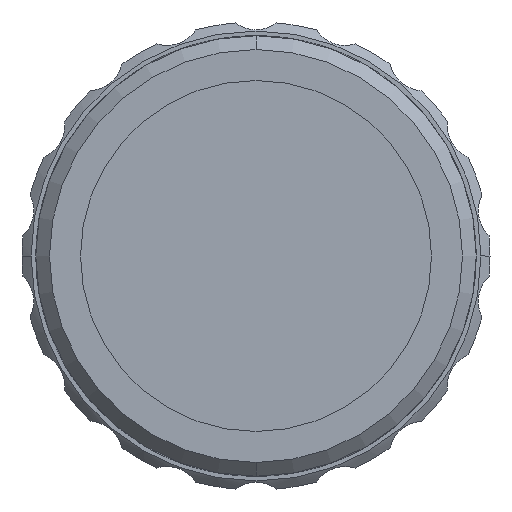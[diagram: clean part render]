
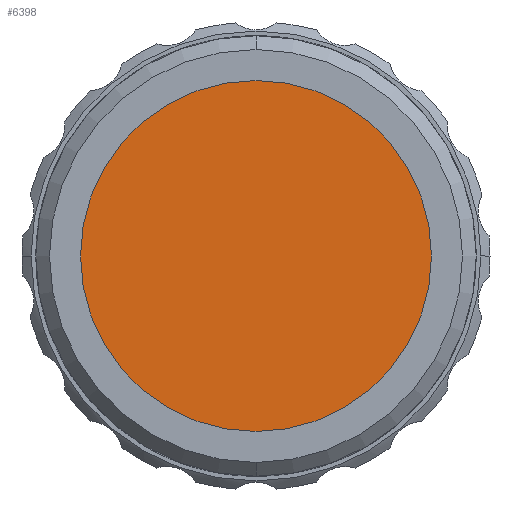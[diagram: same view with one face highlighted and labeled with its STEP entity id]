
A CAD part, front view. The second image highlights one B-rep face of the part: STEP entity #6398.
In plain terms, the highlighted planar face has unit normal (0, -1, 0).
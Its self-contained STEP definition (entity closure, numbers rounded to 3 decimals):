
#111 = CIRCLE ( 'NONE', #5769, 14.255 ) ;
#505 = DIRECTION ( 'NONE',  ( 0., 0., -1. ) ) ;
#1157 = EDGE_LOOP ( 'NONE', ( #12143, #11635 ) ) ;
#4264 = DIRECTION ( 'NONE',  ( 0., 0., -1. ) ) ;
#5537 = EDGE_CURVE ( 'NONE', #7720, #9409, #111, .T. ) ;
#5769 = AXIS2_PLACEMENT_3D ( 'NONE', #10181, #8959, #13613 ) ;
#5774 = CARTESIAN_POINT ( 'NONE',  ( -14.255, -60.4, 0. ) ) ;
#6398 = ADVANCED_FACE ( 'NONE', ( #10480 ), #7390, .T. ) ;
#7390 = PLANE ( 'NONE',  #11386 ) ;
#7686 = CARTESIAN_POINT ( 'NONE',  ( 0., -60.4, 0. ) ) ;
#7720 = VERTEX_POINT ( 'NONE', #5774 ) ;
#8165 = EDGE_CURVE ( 'NONE', #9409, #7720, #10829, .T. ) ;
#8959 = DIRECTION ( 'NONE',  ( 0., 1., 0. ) ) ;
#9409 = VERTEX_POINT ( 'NONE', #12729 ) ;
#10181 = CARTESIAN_POINT ( 'NONE',  ( 0., -60.4, 0. ) ) ;
#10480 = FACE_OUTER_BOUND ( 'NONE', #1157, .T. ) ;
#10829 = CIRCLE ( 'NONE', #12176, 14.255 ) ;
#10849 = CARTESIAN_POINT ( 'NONE',  ( 0., -60.4, 0. ) ) ;
#11386 = AXIS2_PLACEMENT_3D ( 'NONE', #10849, #13375, #505 ) ;
#11635 = ORIENTED_EDGE ( 'NONE', *, *, #5537, .F. ) ;
#12143 = ORIENTED_EDGE ( 'NONE', *, *, #8165, .F. ) ;
#12176 = AXIS2_PLACEMENT_3D ( 'NONE', #7686, #13430, #4264 ) ;
#12729 = CARTESIAN_POINT ( 'NONE',  ( 14.255, -60.4, 0. ) ) ;
#13375 = DIRECTION ( 'NONE',  ( 0., -1., 0. ) ) ;
#13430 = DIRECTION ( 'NONE',  ( 0., 1., 0. ) ) ;
#13613 = DIRECTION ( 'NONE',  ( 0., 0., -1. ) ) ;
